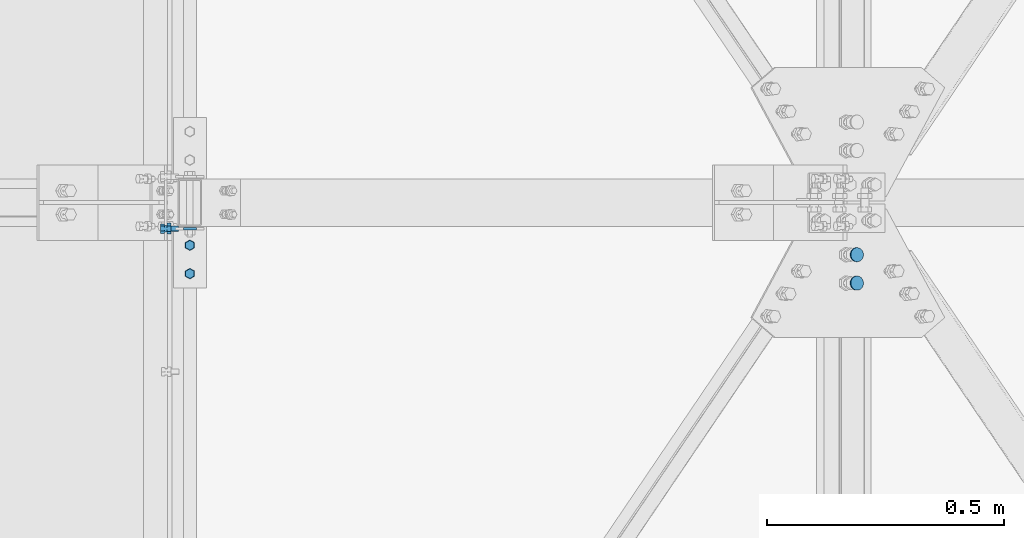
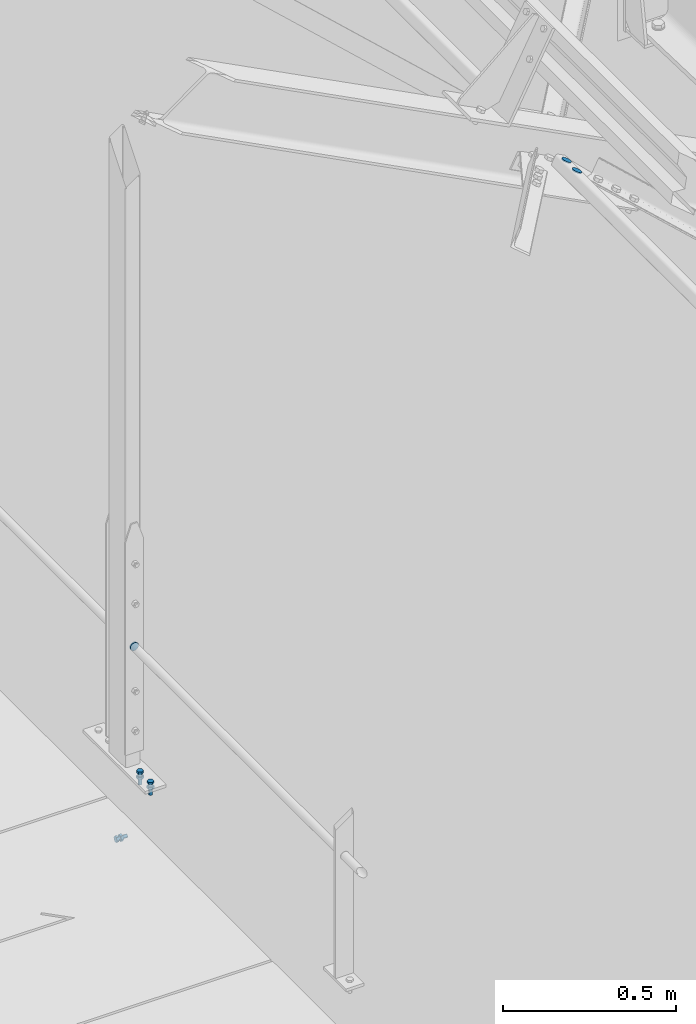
# One storey, part 291 of 362: 4 mechanical fasteners.
"""IFC2X3 building model written with IfcOpenShell, lengths in millimetres."""

from ifc_helpers import new_model, si_unit, frame, origin_with_axes, origin_2d_with_axis, place, context, subcontext, project, spatial, polyline, circle, outline, extrude, source, transform, mapped, material, type_object, element, save


model = new_model("IFC2X3")

# Units and contexts
model_context = context("Model", 3, precision=1e-05, world=origin_with_axes())
body_context = subcontext(model_context, "Body", "Model", "MODEL_VIEW")
ifc_project = project(units=[si_unit("LENGTHUNIT", "METRE", prefix="MILLI"), si_unit("AREAUNIT", "SQUARE_METRE"), si_unit("VOLUMEUNIT", "CUBIC_METRE"), si_unit("MASSUNIT", "GRAM", prefix="KILO"), si_unit("TIMEUNIT", "SECOND"), si_unit("PLANEANGLEUNIT", "RADIAN"), si_unit("SOLIDANGLEUNIT", "STERADIAN"), si_unit("THERMODYNAMICTEMPERATUREUNIT", "DEGREE_CELSIUS"), si_unit("LUMINOUSINTENSITYUNIT", "LUMEN")], contexts=[model_context])

# Site, building, storey
site_placement = place(None, origin_with_axes())
site = spatial("IfcSite", under=ifc_project, at=site_placement, Name="Undefined", CompositionType="ELEMENT")
building_placement = place(site_placement, origin_with_axes())
building = spatial("IfcBuilding", under=site, at=building_placement, Name="Undefined", CompositionType="ELEMENT")
storey_placement = place(building_placement, origin_with_axes())
storey = spatial("IfcBuildingStorey", under=building, at=storey_placement, Name="Undefined", CompositionType="ELEMENT", Elevation=0.0)

# Mechanical fasteners
ifc_material_1 = material(Name="6.8")
mechanical_fastener_type = type_object("IfcMechanicalFastenerType", Name="Bolt assembly")
shared_shape_1 = source(origin_with_axes(), body_context, "Body", "SweptSolid", [
    extrude(circle(Radius=15.0, at=origin_2d_with_axis()), frame((0.0, 0.0, 0.0), z_axis=(0.0, 1.0, 0.0), x_axis=(1.0, 0.0, 0.0)), (0.0, 0.0, 1.0), 4.1),
])
mechanical_fastener_1_placement = place(storey_placement, frame((26193.4056113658, 11290.0013228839, 9926.43170120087), z_axis=(0.887870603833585, 2.26639154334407e-05, -0.460093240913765), x_axis=(2.01259999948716e-05, -0.999999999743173, -1.04209999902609e-05)))
element("IfcMechanicalFastener", 1, at=mechanical_fastener_1_placement, inside=storey, type_object=mechanical_fastener_type, material=ifc_material_1, Name="Bolt assembly", NominalDiameter=30.0, NominalLength=4.0, context=body_context, shape_type="MappedRepresentation", body=[
    mapped(shared_shape_1, transform((0.0, 0.0, 0.0))),
    mapped(shared_shape_1, transform((60.0, 0.0, 0.0))),
])
ifc_material_2 = material(Name="8.8-SB-ZINGUE")
shared_shape_2 = source(origin_with_axes(), body_context, "Body", "SweptSolid", [
    extrude(circle(Radius=7.0, at=origin_2d_with_axis()), frame((0.0, -10.0000010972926, 0.0), z_axis=(0.0, 1.0, 0.0), x_axis=(1.0, 0.0, 0.0)), (0.0, 0.0, 1.0), 10.1),
    extrude(outline(polyline([(10.39230484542, 0.0), (5.19615242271, 9.00000000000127), (-5.19615242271, 9.00000000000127), (-10.39230484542, 0.0), (-5.19615242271, -9.00000000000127), (5.19615242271, -9.00000000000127), (10.39230484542, 0.0)])), frame((0.0, -17.92, 0.0), z_axis=(0.0, 1.0, 0.0), x_axis=(1.0, 0.0, 0.0)), (0.0, 0.0, 1.0), 7.92),
    extrude(circle(Radius=6.0, at=origin_2d_with_axis()), frame((0.0, -10.0000010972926, 0.0), z_axis=(0.0, 1.0, 0.0), x_axis=(1.0, 0.0, 0.0)), (0.0, 0.0, 1.0), 40.0),
    extrude(outline(polyline([(11.5008173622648, 0.0), (5.7504086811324, 9.96000000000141), (-5.7504086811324, 9.96000000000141), (-11.5008173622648, 0.0), (-5.7504086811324, -9.96000000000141), (5.7504086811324, -9.96000000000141), (11.5008173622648, 0.0)])), frame((0.0, 0.0, 0.0), z_axis=(0.0, 1.0, 0.0), x_axis=(1.0, 0.0, 0.0)), (0.0, 0.0, 1.0), 7.92),
])
mechanical_fastener_2_placement = place(storey_placement, frame((24783.9916006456, 11250.000106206, 8240.00002612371), z_axis=(-1.0, 0.0, 0.0), x_axis=(0.0, 1.0, 0.0)))
element("IfcMechanicalFastener", 2, at=mechanical_fastener_2_placement, inside=storey, type_object=mechanical_fastener_type, material=ifc_material_2, Name="Bolt assembly", NominalDiameter=12.0, NominalLength=40.0, context=body_context, shape_type="MappedRepresentation", body=[
    mapped(shared_shape_2, transform((0.0, 0.0, 0.0))),
    mapped(shared_shape_2, transform((60.0, 0.0, 0.0))),
])
shared_shape_3 = source(origin_with_axes(), body_context, "Body", "SweptSolid", [
    extrude(circle(Radius=14.0, at=origin_2d_with_axis()), frame((0.0, -2.5, 0.0), z_axis=(0.0, 1.0, 0.0), x_axis=(1.0, 0.0, 0.0)), (0.0, 0.0, 1.0), 5.1),
])
mechanical_fastener_3_placement = place(storey_placement, frame((24783.9916060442, 11345.0000018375, 8673.79999937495), z_axis=(0.0, 0.0, 1.0), x_axis=(-1.0, 0.0, 0.0)))
element("IfcMechanicalFastener", 3, at=mechanical_fastener_3_placement, inside=storey, type_object=mechanical_fastener_type, material=ifc_material_1, Name="Bolt assembly", NominalDiameter=27.0, NominalLength=10.0, context=body_context, shape_type="MappedRepresentation", body=[
    mapped(shared_shape_3, transform((0.0, 0.0, 0.0))),
])
shared_shape_4 = source(origin_with_axes(), body_context, "Body", "SweptSolid", [
    extrude(circle(Radius=7.0, at=origin_2d_with_axis()), frame((0.0, -6.5, 0.0), z_axis=(0.0, 1.0, 0.0), x_axis=(1.0, 0.0, 0.0)), (0.0, 0.0, 1.0), 6.1),
    extrude(outline(polyline([(10.39230484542, 0.0), (5.19615242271, 9.00000000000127), (-5.19615242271, 9.00000000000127), (-10.39230484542, 0.0), (-5.19615242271, -9.00000000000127), (5.19615242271, -9.00000000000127), (10.39230484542, 0.0)])), frame((0.0, -14.42, 0.0), z_axis=(0.0, 1.0, 0.0), x_axis=(1.0, 0.0, 0.0)), (0.0, 0.0, 1.0), 7.92),
    extrude(circle(Radius=6.0, at=origin_2d_with_axis()), frame((0.0, -6.5, 0.0), z_axis=(0.0, 1.0, 0.0), x_axis=(1.0, 0.0, 0.0)), (0.0, 0.0, 1.0), 30.0),
    extrude(outline(polyline([(11.5008173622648, 0.0), (5.7504086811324, 9.96000000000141), (-5.7504086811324, 9.96000000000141), (-11.5008173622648, 0.0), (-5.7504086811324, -9.96000000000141), (5.7504086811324, -9.96000000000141), (11.5008173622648, 0.0)])), frame((0.0, -0.5, 0.0), z_axis=(0.0, 1.0, 0.0), x_axis=(1.0, 0.0, 0.0)), (0.0, 0.0, 1.0), 7.92),
])
mechanical_fastener_4_placement = place(storey_placement, frame((24736.4916006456, 11344.9999999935, 8015.00000000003), z_axis=(0.0, 0.0, -1.0), x_axis=(0.0, 1.0, 0.0)))
element("IfcMechanicalFastener", 4, at=mechanical_fastener_4_placement, inside=storey, type_object=mechanical_fastener_type, material=ifc_material_2, Name="Bolt assembly", NominalDiameter=12.0, NominalLength=30.0, context=body_context, shape_type="MappedRepresentation", body=[
    mapped(shared_shape_4, transform((0.0, 0.0, 0.0))),
])

save(model, "model.ifc")
